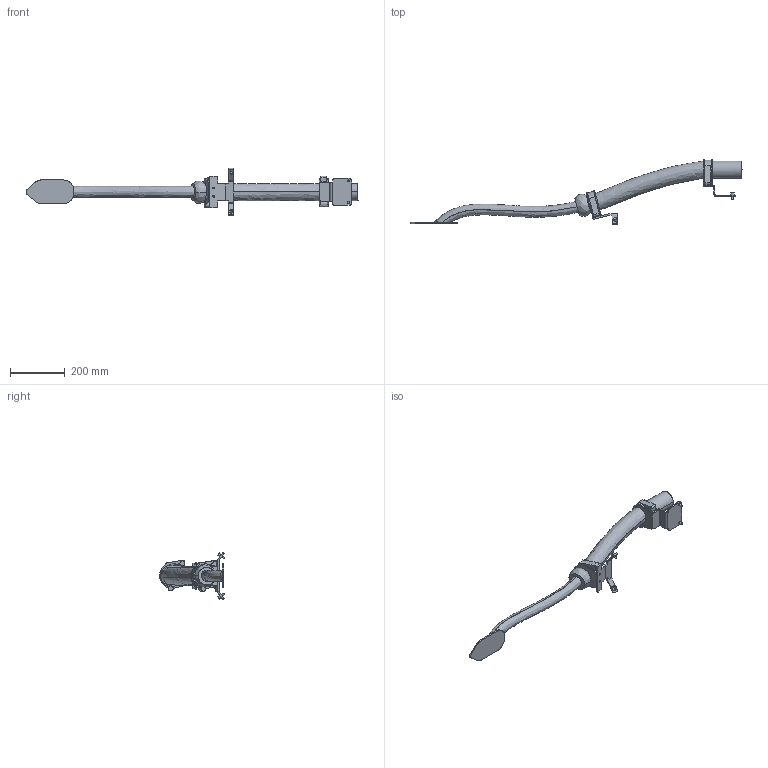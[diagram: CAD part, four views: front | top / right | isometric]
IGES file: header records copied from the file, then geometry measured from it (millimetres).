
Start section: SolidWorks IGES file using analytic representation for surfaces
Global section: file name: C:\Data\SAP_DOC\IRB6740_lightweight\6740\IRB6740-MH3_240kg-320_OC_01_SW_J\IRB6740-MH3_240kg-320_OC_01_IGES_J\IRB6740-MH3_240kg-320_OC_00_LINK04_CABLE.igs; native system: SolidWorks 2024; preprocessor: SolidWorks 2024; author: SEJAOLS6; date: 260513.071614; units: millimetre
Bounding box: 1217.81 x 238.88 x 174.65 mm (x, y, z)
Surface area: 309071 mm2 (no closed solid volume)
Topology: 0 solids, 0 shells, 281 faces, 3896 edges, 3896 vertices
Faces by surface type: bspline 191, revolution 90
